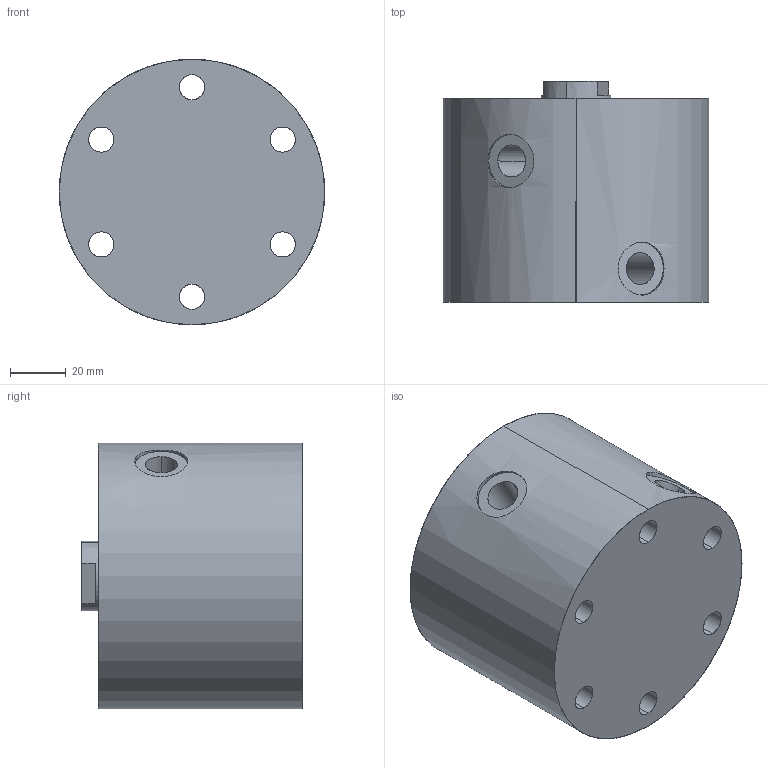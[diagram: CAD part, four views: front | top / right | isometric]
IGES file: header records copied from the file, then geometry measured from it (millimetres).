
Start section: SolidWorks IGES file using analytic representation for surfaces
Global section: file name: D:\abhilash\nijil\cylinder\Clasys1\COMPACT CYLINDER\od95\95pt\compac 95op-10 (r).IGS; native system: SolidWorks 2010; preprocessor: SolidWorks 2010; author: nidheesh; date: 130730.122258; units: millimetre
Bounding box: 95 x 79 x 95 mm (x, y, z)
Surface area: 53361.4 mm2 (no closed solid volume)
Topology: 0 solids, 0 shells, 35 faces, 1016 edges, 1016 vertices
Faces by surface type: revolution 26, bspline 9
